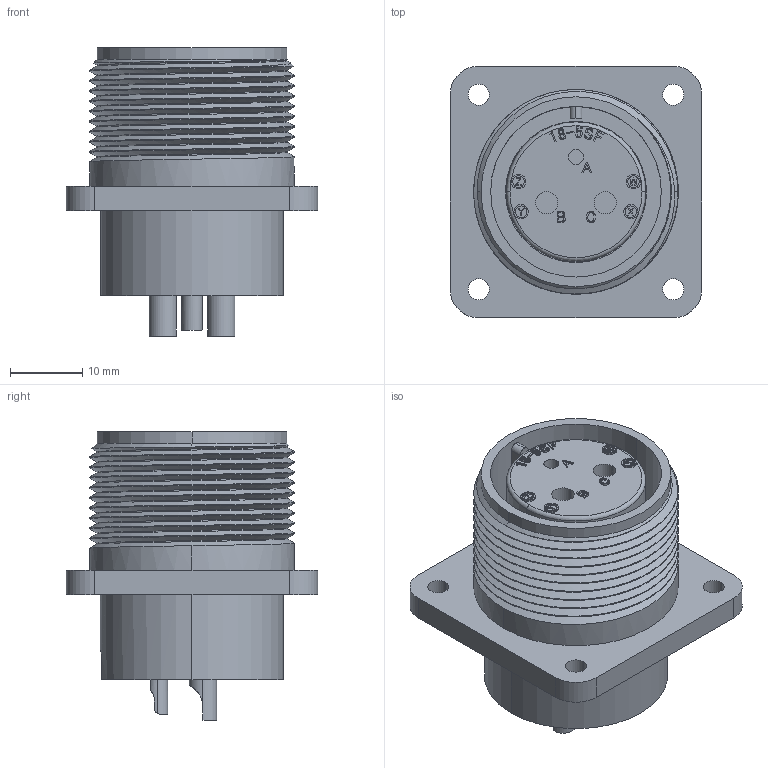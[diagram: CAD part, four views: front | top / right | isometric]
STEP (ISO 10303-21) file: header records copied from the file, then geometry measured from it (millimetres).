
FILE_DESCRIPTION (( 'STEP AP203' ), '1' );
FILE_NAME ('DMS3102A18-5S.STEP', '2017-05-17T01:16:08', ( '' ), ( '' ), 'SwSTEP 2.0', 'SolidWorks 2015', '' );
FILE_SCHEMA (( 'CONFIG_CONTROL_DESIGN' ));
Length unit declared in the file: millimetre
Products named in the file (1): DMS3102A18-5S
Bounding box: 34.92 x 34.92 x 40.03 mm (x, y, z)
Volume: 17682.9 mm3; surface area: 10504.8 mm2
Topology: 1 solids, 1 shells, 636 faces, 1714 edges, 1137 vertices
Faces by surface type: plane 256, bspline 232, cylinder 135, cone 7, torus 6
Entity records: 27821 total; most frequent: CARTESIAN_POINT 13490, ORIENTED_EDGE 3428, DIRECTION 2132, EDGE_CURVE 1714, VERTEX_POINT 1137, LINE 938, VECTOR 938, EDGE_LOOP 703
